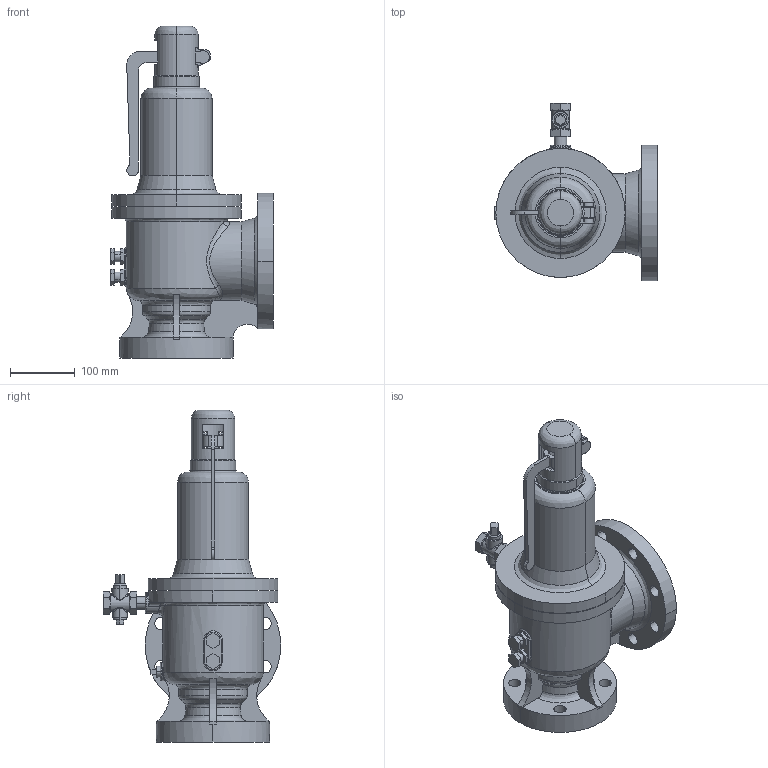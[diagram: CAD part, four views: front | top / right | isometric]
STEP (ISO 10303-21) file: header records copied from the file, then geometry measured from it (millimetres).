
FILE_DESCRIPTION( (''), '2;1');
FILE_NAME ('PC1027.9568.AF-4 65A_31177.stp','2025-07-28T12:50:37',(''),(''),'spGate 19.8.4 (****-****-****-****)','','');
FILE_SCHEMA (('AUTOMOTIVE_DESIGN'));
Length unit declared in the file: millimetre
Products named in the file (8): Assembly; AF-4 本体部P 65A; 止めボルト 65A; 背圧絞り弁 65A; プラグ 10A; レバーキャップ 65A; レバー 65A_1; レバー 65A_2
Assembly tree (8 placements, depth 2):
  Assembly
    AF-4 本体部P 65A
    止めボルト 65A  x2
    背圧絞り弁 65A
    プラグ 10A
    レバーキャップ 65A
    レバー 65A_1
    レバー 65A_2
Bounding box: 252 x 275 x 514 mm (x, y, z)
Volume: 7902105 mm3; surface area: 491549.3 mm2
Topology: 8 solids, 8 shells, 404 faces, 1050 edges, 656 vertices
Faces by surface type: plane 157, bspline 136, cylinder 111
Entity records: 30673 total; most frequent: CARTESIAN_POINT 14171, ORIENTED_EDGE 1960, DIRECTION 1611, COLOUR_RGB 1373, PRESENTATION_STYLE_ASSIGNMENT 1373, STYLED_ITEM 1373, EDGE_CURVE 980, DRAUGHTING_PRE_DEFINED_CURVE_FONT 980
